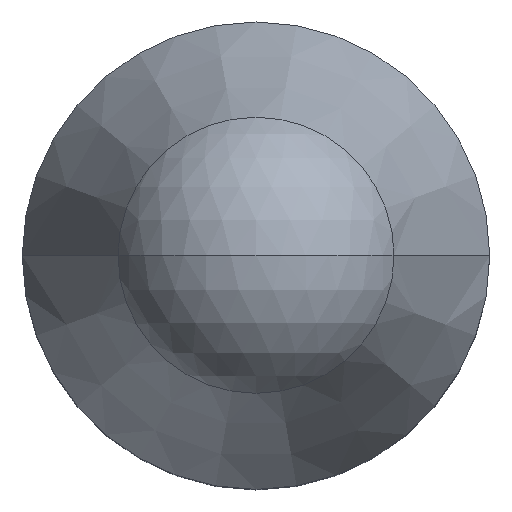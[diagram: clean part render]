
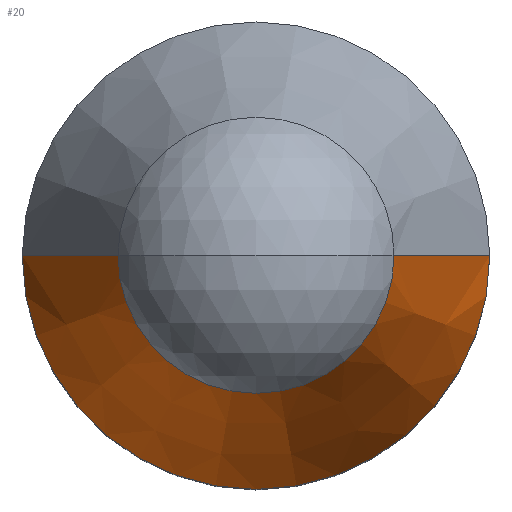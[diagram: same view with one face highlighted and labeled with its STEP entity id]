
A CAD part, top view. The second image highlights one B-rep face of the part: STEP entity #20.
In plain terms, the highlighted conical face has half-angle 21.782 degrees and reference radius 1.476 mm.
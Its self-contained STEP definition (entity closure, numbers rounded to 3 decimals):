
#15 = CARTESIAN_POINT ( 'NONE',  ( 0., 0., -1. ) ) ;
#20 = ADVANCED_FACE ( 'NONE', ( #294 ), #120, .T. ) ;
#24 = DIRECTION ( 'NONE',  ( 0., 0., 1. ) ) ;
#25 = DIRECTION ( 'NONE',  ( 0., 0., -1. ) ) ;
#34 = CARTESIAN_POINT ( 'NONE',  ( -1.476, 0., -1. ) ) ;
#38 = DIRECTION ( 'NONE',  ( -1., 0., 0. ) ) ;
#61 = VECTOR ( 'NONE', #250, 1000. ) ;
#67 = VERTEX_POINT ( 'NONE', #34 ) ;
#68 = CIRCLE ( 'NONE', #291, 1.476 ) ;
#101 = DIRECTION ( 'NONE',  ( 1., 0., 0. ) ) ;
#110 = DIRECTION ( 'NONE',  ( 0., 0., 1. ) ) ;
#114 = CARTESIAN_POINT ( 'NONE',  ( 0., 0., -3.561 ) ) ;
#118 = CIRCLE ( 'NONE', #235, 2.5 ) ;
#120 = CONICAL_SURFACE ( 'NONE', #301, 1.476, 0.38 ) ;
#121 = ORIENTED_EDGE ( 'NONE', *, *, #306, .T. ) ;
#126 = LINE ( 'NONE', #181, #61 ) ;
#131 = DIRECTION ( 'NONE',  ( -0.371, 0., -0.929 ) ) ;
#134 = CARTESIAN_POINT ( 'NONE',  ( -1.476, 0., -1. ) ) ;
#142 = CARTESIAN_POINT ( 'NONE',  ( -2.5, 0., -3.561 ) ) ;
#172 = LINE ( 'NONE', #134, #256 ) ;
#181 = CARTESIAN_POINT ( 'NONE',  ( 1.476, 0., -1. ) ) ;
#183 = EDGE_LOOP ( 'NONE', ( #199, #274, #201, #121 ) ) ;
#185 = CARTESIAN_POINT ( 'NONE',  ( 0., 0., -1. ) ) ;
#187 = DIRECTION ( 'NONE',  ( 1., 0., 0. ) ) ;
#190 = CARTESIAN_POINT ( 'NONE',  ( 1.476, 0., -1. ) ) ;
#194 = EDGE_CURVE ( 'NONE', #67, #221, #68, .T. ) ;
#199 = ORIENTED_EDGE ( 'NONE', *, *, #216, .F. ) ;
#201 = ORIENTED_EDGE ( 'NONE', *, *, #304, .T. ) ;
#212 = CARTESIAN_POINT ( 'NONE',  ( 2.5, 0., -3.561 ) ) ;
#216 = EDGE_CURVE ( 'NONE', #221, #238, #126, .T. ) ;
#221 = VERTEX_POINT ( 'NONE', #190 ) ;
#235 = AXIS2_PLACEMENT_3D ( 'NONE', #114, #110, #101 ) ;
#238 = VERTEX_POINT ( 'NONE', #212 ) ;
#250 = DIRECTION ( 'NONE',  ( 0.371, 0., -0.929 ) ) ;
#256 = VECTOR ( 'NONE', #131, 1000. ) ;
#273 = VERTEX_POINT ( 'NONE', #142 ) ;
#274 = ORIENTED_EDGE ( 'NONE', *, *, #194, .F. ) ;
#291 = AXIS2_PLACEMENT_3D ( 'NONE', #15, #24, #187 ) ;
#294 = FACE_OUTER_BOUND ( 'NONE', #183, .T. ) ;
#301 = AXIS2_PLACEMENT_3D ( 'NONE', #185, #25, #38 ) ;
#304 = EDGE_CURVE ( 'NONE', #67, #273, #172, .T. ) ;
#306 = EDGE_CURVE ( 'NONE', #273, #238, #118, .T. ) ;
